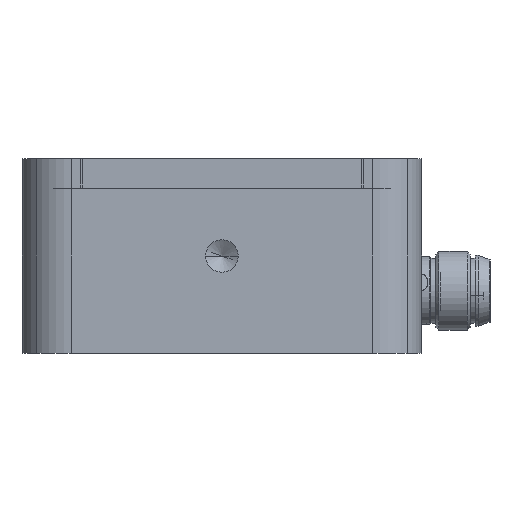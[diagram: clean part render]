
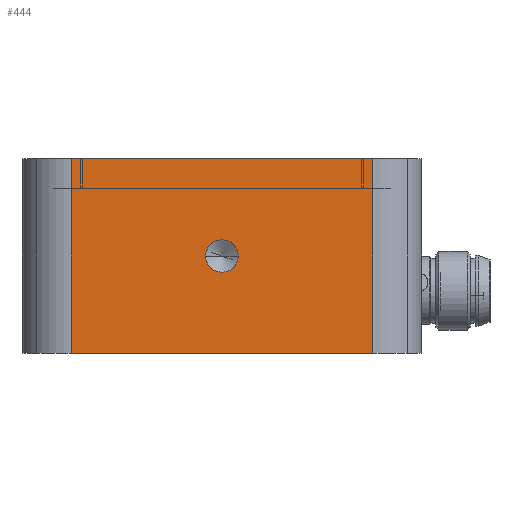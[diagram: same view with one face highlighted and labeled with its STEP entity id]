
A CAD part, left-side view. The second image highlights one B-rep face of the part: STEP entity #444.
In plain terms, the highlighted planar face has unit normal (-1, 0, 0).
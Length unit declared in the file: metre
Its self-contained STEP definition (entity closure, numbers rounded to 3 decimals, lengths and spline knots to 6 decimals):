
#444=ADVANCED_FACE('363:4780',(#1370,#1371),#1372,.T.);
#1370=FACE_BOUND('',#2687,.T.);
#1371=FACE_OUTER_BOUND('',#2688,.T.);
#1372=PLANE('',#2689);
#2687=EDGE_LOOP('',(#5720,#5721));
#2688=EDGE_LOOP('',(#5722,#5723,#5724,#5725));
#2689=AXIS2_PLACEMENT_3D('',#5726,#5727,#5728);
#5720=ORIENTED_EDGE('',*,*,#7742,.T.);
#5721=ORIENTED_EDGE('',*,*,#8355,.T.);
#5722=ORIENTED_EDGE('',*,*,#8367,.F.);
#5723=ORIENTED_EDGE('',*,*,#8368,.T.);
#5724=ORIENTED_EDGE('',*,*,#7701,.F.);
#5725=ORIENTED_EDGE('',*,*,#8369,.T.);
#5726=CARTESIAN_POINT('',(-0.0121,0.0,0.0));
#5727=DIRECTION('',(-1.0,0.0,0.0));
#5728=DIRECTION('',(0.0,-1.0,0.0));
#7701=EDGE_CURVE('363:5431',#9407,#9409,#9410,.T.);
#7742=EDGE_CURVE('363:5257',#9485,#9489,#9491,.T.);
#8355=EDGE_CURVE('363:5257',#9489,#9485,#10469,.T.);
#8367=EDGE_CURVE('363:5425',#10481,#10482,#10483,.T.);
#8368=EDGE_CURVE('363:5428',#10481,#9409,#10484,.F.);
#8369=EDGE_CURVE('363:5434',#9407,#10482,#10485,.T.);
#9407=VERTEX_POINT('',#11708);
#9409=VERTEX_POINT('',#11710);
#9410=LINE('',#11711,#11712);
#9485=VERTEX_POINT('',#11805);
#9489=VERTEX_POINT('',#11810);
#9491=CIRCLE('',#11813,0.00165);
#10469=CIRCLE('',#13783,0.00165);
#10481=VERTEX_POINT('',#13795);
#10482=VERTEX_POINT('',#13796);
#10483=LINE('',#13797,#13798);
#10484=LINE('',#13799,#13800);
#10485=LINE('',#13801,#13802);
#11708=CARTESIAN_POINT('',(-0.0121,0.0153,0.0));
#11710=CARTESIAN_POINT('',(-0.0121,0.0153,0.0198));
#11711=CARTESIAN_POINT('',(-0.0121,0.0153,0.0));
#11712=VECTOR('',#15446,1.0);
#11805=CARTESIAN_POINT('',(-0.0121,0.00165,0.0099));
#11810=CARTESIAN_POINT('',(-0.0121,-0.00165,0.0099));
#11813=AXIS2_PLACEMENT_3D('',#15527,#15528,#15529);
#13783=AXIS2_PLACEMENT_3D('',#16705,#16706,#16707);
#13795=CARTESIAN_POINT('',(-0.0121,-0.0153,0.0198));
#13796=CARTESIAN_POINT('',(-0.0121,-0.0153,0.0));
#13797=CARTESIAN_POINT('',(-0.0121,-0.0153,0.0));
#13798=VECTOR('',#16741,1.0);
#13799=CARTESIAN_POINT('',(-0.0121,0.0,0.0198));
#13800=VECTOR('',#16742,1.0);
#13801=CARTESIAN_POINT('',(-0.0121,0.0,0.0));
#13802=VECTOR('',#16743,1.0);
#15446=DIRECTION('',(0.0,0.0,1.0));
#15527=CARTESIAN_POINT('',(-0.0121,0.0,0.0099));
#15528=DIRECTION('',(1.0,0.0,-0.0));
#15529=DIRECTION('',(0.0,1.0,0.));
#16705=CARTESIAN_POINT('',(-0.0121,0.0,0.0099));
#16706=DIRECTION('',(1.0,0.0,-0.0));
#16707=DIRECTION('',(0.0,1.0,0.));
#16741=DIRECTION('',(-0.0,-0.0,-1.0));
#16742=DIRECTION('',(-0.0,-1.0,-0.0));
#16743=DIRECTION('',(-0.0,-1.0,-0.0));
